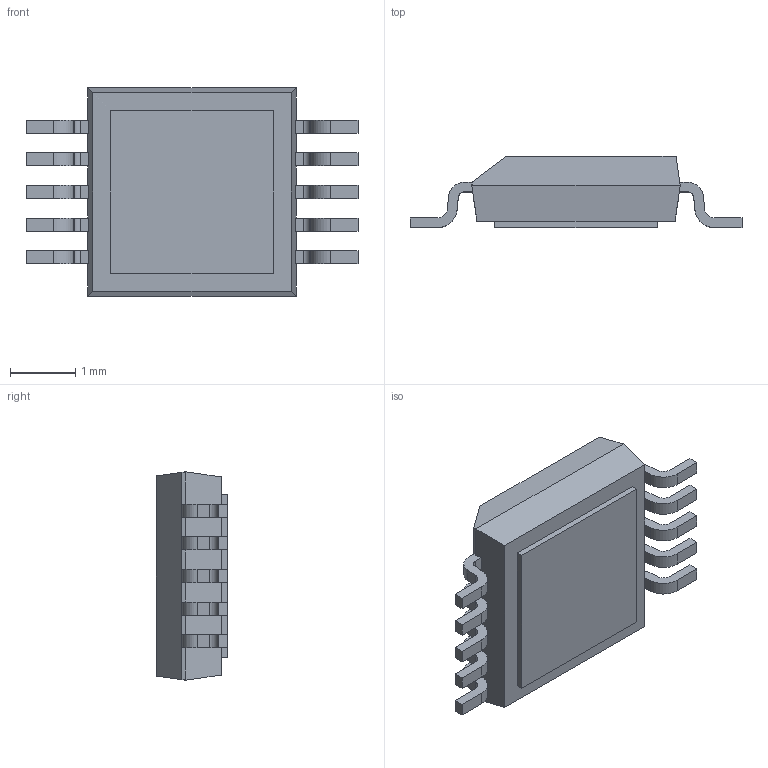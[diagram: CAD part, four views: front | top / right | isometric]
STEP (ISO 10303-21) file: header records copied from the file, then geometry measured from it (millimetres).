
FILE_DESCRIPTION (( 'STEP AP214' ), '1' );
FILE_NAME ('TSSOP50P490X110-10TP MO-187.BA-T.STEP', '2014-10-27T14:50:53', ( 'Tester2' ), ( '' ), 'SwSTEP 2.0', 'SolidWorks 2012', '' );
FILE_SCHEMA (( 'AUTOMOTIVE_DESIGN' ));
Length unit declared in the file: millimetre
Products named in the file (1): TSSOP50P490X110-10TP MO-187.BA-T
Bounding box: 5.1 x 1.1 x 3.2 mm (x, y, z)
Volume: 10.5 mm3; surface area: 40.8 mm2
Topology: 1 solids, 1 shells, 149 faces, 431 edges, 286 vertices
Faces by surface type: plane 107, cylinder 42
Entity records: 6429 total; most frequent: CARTESIAN_POINT 867, ORIENTED_EDGE 862, DIRECTION 815, EDGE_CURVE 431, VECTOR 347, LINE 347, VERTEX_POINT 286, AXIS2_PLACEMENT_3D 234
